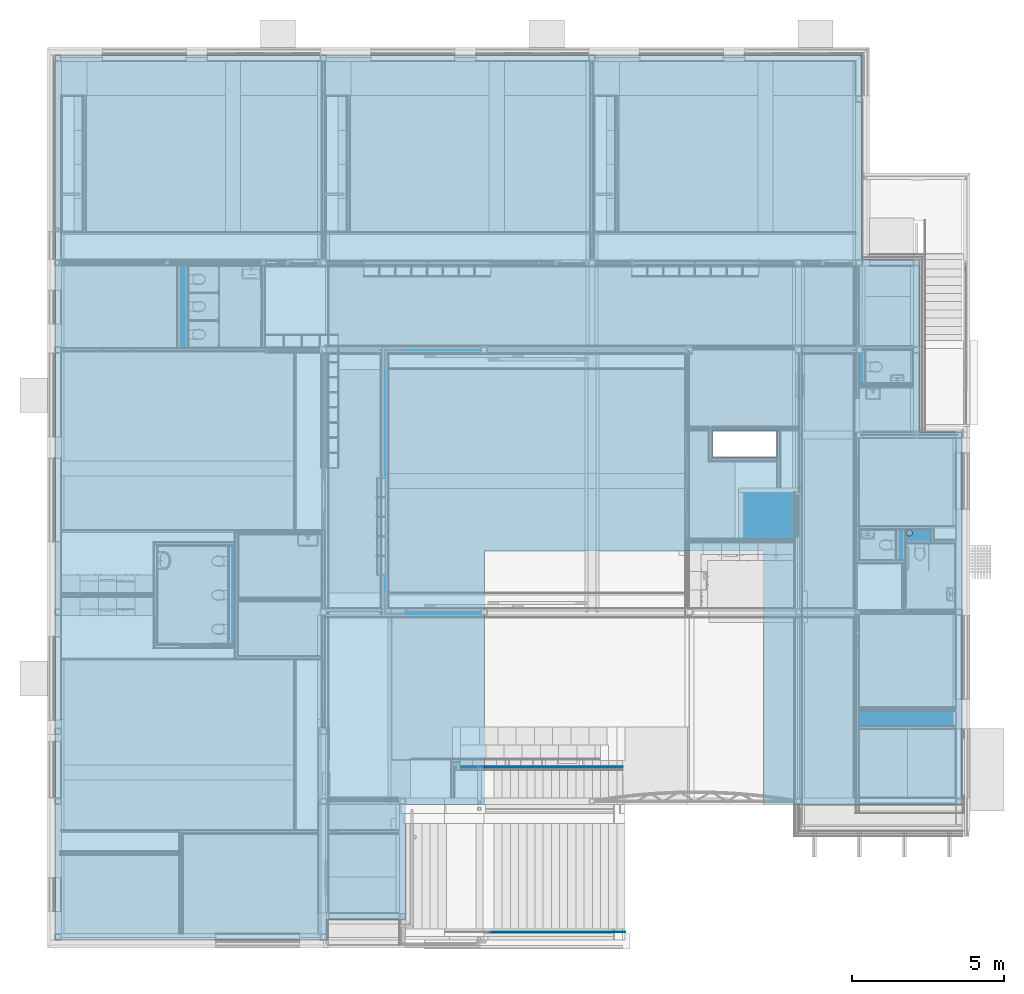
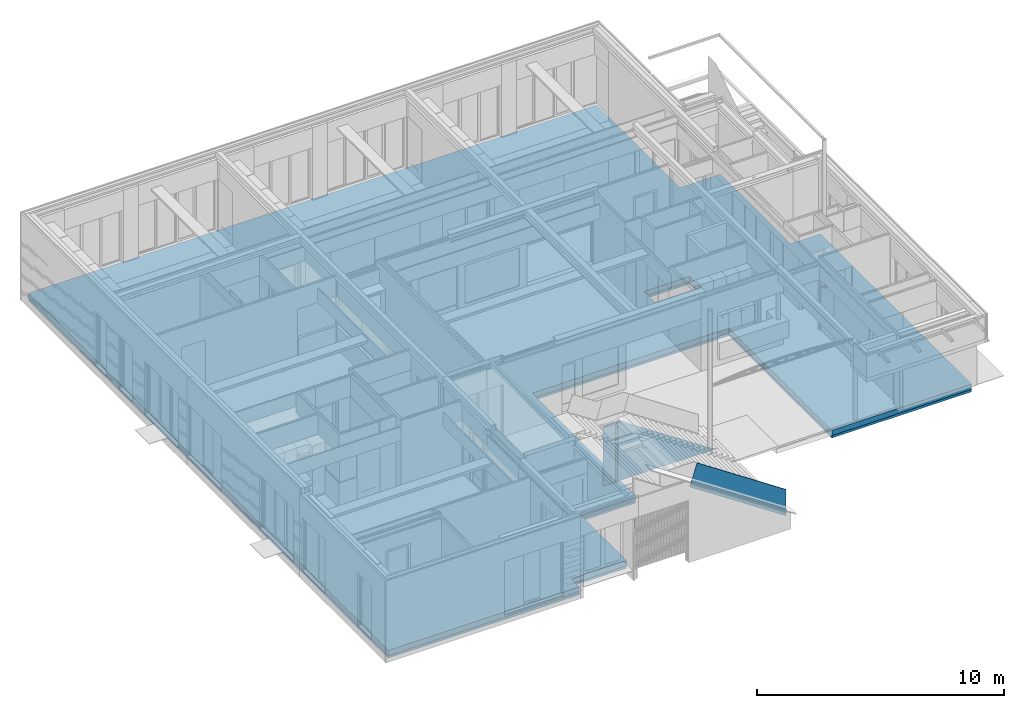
# One storey, part 59 of 165: 7 building element parts, 3 elements without a shape of their own.
"""IFC2X3 building model written with IfcOpenShell, lengths in millimetres."""

from ifc_helpers import new_model, entity, si_unit, converted_unit, derived_unit, money_unit, direction, frame, origin_with_axes, place, context, subcontext, project, spatial, faceted_brep, material, type_object, element, aggregate, save


model = new_model("IFC2X3")

# Units and contexts
model_context = context("Model", 3, precision=0.01, world=origin_with_axes(), true_north=direction((0.0, 1.0)))
body_context = subcontext(model_context, "Body", "Model", "MODEL_VIEW")
ifc_project = project(units=[si_unit("LENGTHUNIT", "METRE", prefix="MILLI"), si_unit("AREAUNIT", "SQUARE_METRE"), si_unit("VOLUMEUNIT", "CUBIC_METRE"), converted_unit("PLANEANGLEUNIT", "DEGREE", entity("IfcPlaneAngleMeasure", 0.0174532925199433), si_unit("PLANEANGLEUNIT", "RADIAN"), dimensions=[0, 0, 0, 0, 0, 0, 0]), money_unit("EUR"), converted_unit("TIMEUNIT", "Year", entity("IfcTimeMeasure", 31556926.0), si_unit("TIMEUNIT", "SECOND"), dimensions=[0, 0, 1, 0, 0, 0, 0]), si_unit("MASSUNIT", "GRAM", prefix="KILO"), si_unit("THERMODYNAMICTEMPERATUREUNIT", "DEGREE_CELSIUS"), si_unit("LUMINOUSINTENSITYUNIT", "LUMEN"), si_unit("ENERGYUNIT", "JOULE", prefix="MEGA"), derived_unit("THERMALCONDUCTANCEUNIT", [(si_unit("POWERUNIT", "WATT"), 1), (si_unit("LENGTHUNIT", "METRE"), -1), (si_unit("THERMODYNAMICTEMPERATUREUNIT", "KELVIN"), -1)]), derived_unit("SPECIFICHEATCAPACITYUNIT", [(si_unit("ENERGYUNIT", "JOULE"), 1), (si_unit("MASSUNIT", "GRAM", prefix="KILO"), -1), (si_unit("THERMODYNAMICTEMPERATUREUNIT", "KELVIN"), -1)]), derived_unit("MASSDENSITYUNIT", [(si_unit("MASSUNIT", "GRAM", prefix="KILO"), 1), (si_unit("VOLUMEUNIT", "CUBIC_METRE"), -1)])], contexts=[model_context])

# Site, building, storey
site_placement = place(None, origin_with_axes())
site = spatial("IfcSite", under=ifc_project, at=site_placement, Name="Site", CompositionType="ELEMENT")
building_placement = place(site_placement, origin_with_axes())
building = spatial("IfcBuilding", under=site, at=building_placement, Name="Naam gebouw", CompositionType="ELEMENT")
storey_placement = place(building_placement, origin_with_axes())
storey = spatial("IfcBuildingStorey", under=building, at=storey_placement, Name="Begane grond", CompositionType="ELEMENT", Elevation=0.0)

# Slab, building element parts
slab_type = type_object("IfcSlabType", Name="23 Geisoleerde kanaalplaat 260 380", PredefinedType="NOTDEFINED")
slab_placement = place(storey_placement, frame((0.0, 0.0, -99.99999999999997), z_axis=(0.0, 0.0, 1.0), x_axis=(1.0, 0.0, 0.0)))
slab = element("IfcSlab", 1, at=slab_placement, inside=storey, type_object=slab_type, Name="_Vloer-x", PredefinedType="NOTDEFINED")
ifc_material_1 = material(Name="Isolatie - Kunststof hard")
building_element_part_1_placement = place(slab_placement, origin_with_axes())
building_element_part_1 = element("IfcBuildingElementPart", 2, at=building_element_part_1_placement, material=ifc_material_1, Name="Isolatie - Kunststof hard", context=body_context, shape_type="Brep", body=[
    faceted_brep([(28255.42270007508, 13417.00472609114, -349.9999999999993), (28251.57453256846, 13443.76931899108, -349.9999999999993), (28240.34178569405, 13468.36560374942, -349.9999999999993), (28222.63446979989, 13488.8009356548, -349.9999999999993), (28199.88712631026, 13503.41976564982, -349.9999999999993), (28173.94260971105, 13511.03776306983, -349.9999999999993), (28146.90279043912, 13511.03776306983, -349.9999999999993), (28120.95827383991, 13503.41976564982, -349.9999999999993), (28098.21093035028, 13488.8009356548, -349.9999999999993), (28080.50361445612, 13468.36560374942, -349.9999999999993), (28069.27086758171, 13443.76931899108, -349.9999999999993), (28065.42270007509, 13417.00472609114, -349.9999999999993), (28069.27086758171, 13390.24013319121, -349.9999999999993), (28080.50361445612, 13365.64384843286, -349.9999999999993), (28098.21093035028, 13345.20851652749, -349.9999999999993), (28120.95827383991, 13330.58968653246, -349.9999999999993), (28146.90279043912, 13322.97168911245, -349.9999999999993), (28173.94260971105, 13322.97168911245, -349.9999999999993), (28199.88712631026, 13330.58968653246, -349.9999999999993), (28222.63446979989, 13345.20851652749, -349.9999999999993), (28240.34178569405, 13365.64384843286, -349.9999999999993), (28251.57453256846, 13390.24013319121, -349.9999999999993), (28255.42270007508, 13417.00472609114, -259.9999999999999), (28251.57453256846, 13443.76931899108, -259.9999999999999), (28240.34178569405, 13468.36560374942, -259.9999999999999), (28222.63446979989, 13488.8009356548, -259.9999999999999), (28199.88712631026, 13503.41976564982, -259.9999999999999), (28173.94260971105, 13511.03776306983, -259.9999999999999), (28146.90279043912, 13511.03776306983, -259.9999999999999), (28120.95827383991, 13503.41976564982, -259.9999999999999), (28098.21093035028, 13488.8009356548, -259.9999999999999), (28080.50361445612, 13468.36560374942, -259.9999999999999), (28069.27086758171, 13443.76931899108, -259.9999999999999), (28065.42270007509, 13417.00472609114, -259.9999999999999), (28069.27086758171, 13390.24013319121, -259.9999999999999), (28080.50361445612, 13365.64384843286, -259.9999999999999), (28098.21093035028, 13345.20851652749, -259.9999999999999), (28120.95827383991, 13330.58968653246, -259.9999999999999), (28146.90279043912, 13322.97168911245, -259.9999999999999), (28173.94260971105, 13322.97168911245, -259.9999999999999), (28199.88712631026, 13330.58968653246, -259.9999999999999), (28222.63446979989, 13345.20851652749, -259.9999999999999), (28240.34178569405, 13365.64384843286, -259.9999999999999), (28251.57453256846, 13390.24013319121, -259.9999999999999), (0.0, 29175.0, -259.9999999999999), (0.0, 0.0, -259.9999999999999), (8949.999999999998, 0.0, -259.9999999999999), (8949.999999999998, 679.9999999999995, -259.9999999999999), (11549.99935047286, 679.9999999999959, -259.9999999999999), (11550.00000000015, 4480.001049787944, -259.9999999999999), (14150.00000000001, 4480.000013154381, -259.9999999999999), (14150.00000000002, 12830.0, -259.9999999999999), (23350.00000000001, 12830.0, -259.9999999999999), (23350.00000000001, 4480.0, -259.9999999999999), (29899.99999999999, 4480.0, -259.9999999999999), (29899.99999999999, 16749.99778166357, -259.9999999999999), (28499.99998415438, 16749.99778166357, -259.9999999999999), (28499.99998415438, 22424.97621406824, -259.9999999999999), (26600.0, 22424.97621406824, -259.9999999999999), (26600.0, 29175.0, -259.9999999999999), (23799.99903999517, 16789.99778166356, -259.9999999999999), (23799.99903999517, 15899.99788904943, -259.9999999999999), (21664.99903999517, 15899.99788904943, -259.9999999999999), (21664.99903999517, 16789.99778166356, -259.9999999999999), (0.0, 29175.0, -380.0), (0.0, 0.0, -380.0), (8949.999999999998, 0.0, -380.0), (8949.999999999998, 679.9999999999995, -380.0), (11549.99935047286, 679.9999999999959, -380.0), (11550.00000000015, 4480.001049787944, -380.0), (14150.00000000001, 4480.000013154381, -380.0), (14150.00000000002, 12830.0, -380.0), (23350.00000000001, 12830.0, -380.0), (23350.00000000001, 4480.0, -380.0), (29899.99999999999, 4480.0, -380.0), (29899.99999999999, 16749.99778166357, -380.0), (28499.99998415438, 16749.99778166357, -380.0), (28499.99998415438, 22424.97621406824, -380.0), (26600.0, 22424.97621406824, -380.0), (26600.0, 29175.0, -380.0), (23799.99903999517, 16789.99778166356, -380.0), (23799.99903999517, 15899.99788904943, -380.0), (21664.99903999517, 15899.99788904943, -380.0), (21664.99903999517, 16789.99778166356, -380.0)], [[[0, 1, 2, 3, 4, 5, 6, 7, 8, 9, 10, 11, 12, 13, 14, 15, 16, 17, 18, 19, 20, 21]], [[22, 23, 1, 0]], [[23, 24, 2, 1]], [[24, 25, 3, 2]], [[25, 26, 4, 3]], [[26, 27, 5, 4]], [[27, 28, 6, 5]], [[28, 29, 7, 6]], [[29, 30, 8, 7]], [[30, 31, 9, 8]], [[31, 32, 10, 9]], [[32, 33, 11, 10]], [[33, 34, 12, 11]], [[34, 35, 13, 12]], [[35, 36, 14, 13]], [[36, 37, 15, 14]], [[37, 38, 16, 15]], [[38, 39, 17, 16]], [[39, 40, 18, 17]], [[40, 41, 19, 18]], [[41, 42, 20, 19]], [[42, 43, 21, 20]], [[43, 22, 0, 21]], [[44, 45, 46, 47, 48, 49, 50, 51, 52, 53, 54, 55, 56, 57, 58, 59], [60, 61, 62, 63], [24, 23, 22, 43, 42, 41, 40, 39, 38, 37, 36, 35, 34, 33, 32, 31, 30, 29, 28, 27, 26, 25]], [[44, 64, 65, 45]], [[45, 65, 66, 46]], [[46, 66, 67, 47]], [[47, 67, 68, 48]], [[48, 68, 69, 49]], [[49, 69, 70, 50]], [[50, 70, 71, 51]], [[51, 71, 72, 52]], [[52, 72, 73, 53]], [[53, 73, 74, 54]], [[54, 74, 75, 55]], [[55, 75, 76, 56]], [[56, 76, 77, 57]], [[57, 77, 78, 58]], [[58, 78, 79, 59]], [[59, 79, 64, 44]], [[60, 80, 81, 61]], [[61, 81, 82, 62]], [[62, 82, 83, 63]], [[63, 83, 80, 60]], [[66, 65, 64, 79, 78, 77, 76, 75, 74, 73, 72, 71, 70, 69, 68, 67], [82, 81, 80, 83]]]),
])
ifc_material_2 = material(Name="Beton gewapend prefab vloer")
building_element_part_2_placement = place(slab_placement, origin_with_axes())
building_element_part_2 = element("IfcBuildingElementPart", 3, at=building_element_part_2_placement, material=ifc_material_2, Name="Beton gewapend prefab vloer", context=body_context, shape_type="Brep", body=[
    faceted_brep([(8949.999999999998, 0.0, -259.9999999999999), (0.0, 0.0, -259.9999999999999), (0.0, 29175.0, -259.9999999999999), (26600.0, 29175.0, -259.9999999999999), (26600.0, 22424.97621406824, -259.9999999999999), (28499.99998415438, 22424.97621406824, -259.9999999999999), (28499.99998415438, 16749.99778166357, -259.9999999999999), (29899.99999999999, 16749.99778166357, -259.9999999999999), (29899.99999999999, 4480.0, -259.9999999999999), (23350.00000000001, 4480.0, -259.9999999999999), (23350.00000000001, 12830.0, -259.9999999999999), (14150.00000000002, 12830.0, -259.9999999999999), (14150.00000000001, 4480.000013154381, -259.9999999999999), (11550.00000000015, 4480.001049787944, -259.9999999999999), (11549.99935047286, 679.9999999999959, -259.9999999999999), (8949.999999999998, 679.9999999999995, -259.9999999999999), (21664.99903999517, 15899.99788904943, -259.9999999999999), (23799.99903999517, 15899.99788904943, -259.9999999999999), (23799.99903999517, 16789.99778166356, -259.9999999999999), (21664.99903999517, 16789.99778166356, -259.9999999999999), (28240.34178569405, 13365.64384843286, -259.9999999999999), (28251.57453256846, 13390.24013319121, -259.9999999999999), (28255.42270007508, 13417.00472609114, -259.9999999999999), (28251.57453256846, 13443.76931899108, -259.9999999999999), (28240.34178569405, 13468.36560374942, -259.9999999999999), (28222.63446979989, 13488.8009356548, -259.9999999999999), (28199.88712631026, 13503.41976564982, -259.9999999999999), (28173.94260971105, 13511.03776306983, -259.9999999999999), (28146.90279043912, 13511.03776306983, -259.9999999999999), (28120.95827383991, 13503.41976564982, -259.9999999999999), (28098.21093035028, 13488.8009356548, -259.9999999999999), (28080.50361445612, 13468.36560374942, -259.9999999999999), (28069.27086758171, 13443.76931899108, -259.9999999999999), (28065.42270007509, 13417.00472609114, -259.9999999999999), (28069.27086758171, 13390.24013319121, -259.9999999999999), (28080.50361445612, 13365.64384843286, -259.9999999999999), (28098.21093035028, 13345.20851652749, -259.9999999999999), (28120.95827383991, 13330.58968653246, -259.9999999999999), (28146.90279043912, 13322.97168911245, -259.9999999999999), (28173.94260971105, 13322.97168911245, -259.9999999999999), (28199.88712631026, 13330.58968653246, -259.9999999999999), (28222.63446979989, 13345.20851652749, -259.9999999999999), (8949.999999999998, 0.0, 0.0), (0.0, 0.0, 0.0), (0.0, 29175.0, 0.0), (26600.0, 29175.0, 0.0), (26600.0, 22424.97621406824, 0.0), (28499.99998415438, 22424.97621406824, 0.0), (28499.99998415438, 16749.99778166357, 0.0), (29899.99999999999, 16749.99778166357, 0.0), (29899.99999999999, 4480.0, 0.0), (23350.00000000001, 4480.0, 0.0), (23350.00000000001, 12830.0, 0.0), (14150.00000000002, 12830.0, 0.0), (14150.00000000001, 4480.000013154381, 0.0), (11550.00000000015, 4480.001049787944, 0.0), (11549.99935047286, 679.9999999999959, 0.0), (8949.999999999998, 679.9999999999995, 0.0), (21664.99903999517, 15899.99788904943, 0.0), (23799.99903999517, 15899.99788904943, 0.0), (23799.99903999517, 16789.99778166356, 0.0), (21664.99903999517, 16789.99778166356, 0.0), (28240.34178569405, 13365.64384843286, 0.0), (28251.57453256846, 13390.24013319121, 0.0), (28255.42270007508, 13417.00472609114, 0.0), (28251.57453256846, 13443.76931899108, 0.0), (28240.34178569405, 13468.36560374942, 0.0), (28222.63446979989, 13488.8009356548, 0.0), (28199.88712631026, 13503.41976564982, 0.0), (28173.94260971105, 13511.03776306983, 0.0), (28146.90279043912, 13511.03776306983, 0.0), (28120.95827383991, 13503.41976564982, 0.0), (28098.21093035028, 13488.8009356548, 0.0), (28080.50361445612, 13468.36560374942, 0.0), (28069.27086758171, 13443.76931899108, 0.0), (28065.42270007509, 13417.00472609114, 0.0), (28069.27086758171, 13390.24013319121, 0.0), (28080.50361445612, 13365.64384843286, 0.0), (28098.21093035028, 13345.20851652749, 0.0), (28120.95827383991, 13330.58968653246, 0.0), (28146.90279043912, 13322.97168911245, 0.0), (28173.94260971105, 13322.97168911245, 0.0), (28199.88712631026, 13330.58968653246, 0.0), (28222.63446979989, 13345.20851652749, 0.0)], [[[0, 1, 2, 3, 4, 5, 6, 7, 8, 9, 10, 11, 12, 13, 14, 15], [16, 17, 18, 19], [20, 21, 22, 23, 24, 25, 26, 27, 28, 29, 30, 31, 32, 33, 34, 35, 36, 37, 38, 39, 40, 41]], [[1, 0, 42, 43]], [[2, 1, 43, 44]], [[3, 2, 44, 45]], [[4, 3, 45, 46]], [[5, 4, 46, 47]], [[6, 5, 47, 48]], [[7, 6, 48, 49]], [[8, 7, 49, 50]], [[9, 8, 50, 51]], [[10, 9, 51, 52]], [[11, 10, 52, 53]], [[12, 11, 53, 54]], [[13, 12, 54, 55]], [[14, 13, 55, 56]], [[15, 14, 56, 57]], [[0, 15, 57, 42]], [[17, 16, 58, 59]], [[18, 17, 59, 60]], [[19, 18, 60, 61]], [[16, 19, 61, 58]], [[62, 63, 21, 20]], [[63, 64, 22, 21]], [[64, 65, 23, 22]], [[65, 66, 24, 23]], [[66, 67, 25, 24]], [[67, 68, 26, 25]], [[68, 69, 27, 26]], [[69, 70, 28, 27]], [[70, 71, 29, 28]], [[71, 72, 30, 29]], [[72, 73, 31, 30]], [[73, 74, 32, 31]], [[74, 75, 33, 32]], [[75, 76, 34, 33]], [[76, 77, 35, 34]], [[77, 78, 36, 35]], [[78, 79, 37, 36]], [[79, 80, 38, 37]], [[80, 81, 39, 38]], [[81, 82, 40, 39]], [[82, 83, 41, 40]], [[83, 62, 20, 41]], [[44, 43, 42, 57, 56, 55, 54, 53, 52, 51, 50, 49, 48, 47, 46, 45], [60, 59, 58, 61], [66, 65, 64, 63, 62, 83, 82, 81, 80, 79, 78, 77, 76, 75, 74, 73, 72, 71, 70, 69, 68, 67]]]),
])
aggregate(slab, [building_element_part_1, building_element_part_2])

# Proxy, building element part
building_element_proxy_type = type_object("IfcBuildingElementProxyType", Name="22 Metal stud 125 oregon pine 125", PredefinedType="NOTDEFINED")
proxy_placement = place(storey_placement, frame((13358.57015757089, 5730.000004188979, -100.0), z_axis=(0.0, 0.0, 1.0), x_axis=(1.0, 0.0, 0.0)))
proxy = element("IfcBuildingElementProxy", 4, at=proxy_placement, inside=storey, type_object=building_element_proxy_type, Name="_Wand-x")
ifc_material_3 = material(Name="Gipsplaat")
building_element_part_3_placement = place(proxy_placement, origin_with_axes())
building_element_part_3 = element("IfcBuildingElementPart", 5, at=building_element_part_3_placement, material=ifc_material_3, Name="Gipsplaat", context=body_context, shape_type="Brep", body=[
    faceted_brep([(5161.429870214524, -12.49999999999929, 38.1601360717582), (5173.670074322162, -12.49999999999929, 29.99999999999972), (5351.427797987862, -12.4999999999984, 29.99999999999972), (5351.427797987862, -12.4999999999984, 0.0), (681.4298424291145, -12.49999999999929, 0.0), (681.4298424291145, -12.49999999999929, 2816.999999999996), (701.4298424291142, -12.4999999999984, 2816.999999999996), (701.4298424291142, -12.4999999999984, 2825.499999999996), (634.1798424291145, -12.4999999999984, 2825.499999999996), (634.1798424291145, -12.4999999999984, 2941.499999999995), (701.4298424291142, -12.4999999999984, 2941.499999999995), (701.4298424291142, -12.4999999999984, 2949.999999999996), (561.4298424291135, -12.4999999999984, 2949.999999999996), (561.4298424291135, -12.4999999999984, 2941.499999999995), (628.6798424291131, -12.4999999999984, 2941.499999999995), (628.6798424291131, -12.4999999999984, 2825.499999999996), (561.4298424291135, -12.4999999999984, 2825.499999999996), (561.4298424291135, -12.4999999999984, 2816.999999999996), (581.4298424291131, -12.49999999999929, 2816.999999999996), (581.4298424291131, -12.49999999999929, 0.0), (-12.49999999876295, -12.50000000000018, 0.0), (-12.49999999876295, -12.50000000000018, 2960.0), (778.6700754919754, -12.49999999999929, 2959.999998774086), (1201.429870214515, -12.49999999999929, 2678.160136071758), (1291.429870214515, -12.49999999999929, 2618.160136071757), (1381.429870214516, -12.49999999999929, 2558.160136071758), (1471.429870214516, -12.49999999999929, 2498.160136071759), (1561.429870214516, -12.49999999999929, 2438.160136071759), (1651.429870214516, -12.49999999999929, 2378.160136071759), (1741.429870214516, -12.49999999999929, 2318.160136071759), (1831.429870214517, -12.49999999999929, 2258.160136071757), (1921.429870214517, -12.49999999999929, 2198.160136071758), (2011.429870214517, -12.49999999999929, 2138.160136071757), (2101.429870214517, -12.49999999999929, 2078.160136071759), (2191.429870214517, -12.49999999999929, 2018.160136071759), (2281.429870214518, -12.49999999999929, 1958.160136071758), (2371.429870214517, -12.49999999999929, 1898.160136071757), (2461.429870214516, -12.49999999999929, 1838.160136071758), (2551.429870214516, -12.49999999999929, 1778.160136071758), (2641.429870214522, -12.49999999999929, 1718.160136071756), (2731.429870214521, -12.49999999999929, 1658.160136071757), (2821.429870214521, -12.49999999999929, 1598.160136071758), (2911.429870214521, -12.49999999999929, 1538.160136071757), (3001.429870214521, -12.49999999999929, 1478.160136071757), (3091.429870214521, -12.49999999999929, 1418.160136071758), (3181.429870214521, -12.49999999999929, 1358.160136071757), (3271.42987021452, -12.49999999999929, 1298.160136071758), (3361.42987021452, -12.49999999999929, 1238.160136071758), (3451.42987021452, -12.49999999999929, 1178.160136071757), (3541.42987021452, -12.49999999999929, 1118.160136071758), (3631.42987021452, -12.49999999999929, 1058.160136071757), (3721.429870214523, -12.49999999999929, 998.1601360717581), (3811.429870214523, -12.49999999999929, 938.1601360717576), (3901.429870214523, -12.49999999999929, 878.1601360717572), (3991.429870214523, -12.49999999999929, 818.1601360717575), (4081.429870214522, -12.49999999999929, 758.160136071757), (4171.429870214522, -12.49999999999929, 698.1601360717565), (4261.429870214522, -12.49999999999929, 638.1601360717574), (4351.429870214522, -12.49999999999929, 578.1601360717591), (4441.429870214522, -12.49999999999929, 518.1601360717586), (4531.429870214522, -12.49999999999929, 458.1601360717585), (4621.429870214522, -12.49999999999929, 398.1601360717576), (4711.429870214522, -12.49999999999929, 338.1601360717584), (4801.429870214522, -12.49999999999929, 278.1601360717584), (4891.429870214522, -12.49999999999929, 218.1601360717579), (4981.429870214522, -12.49999999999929, 158.1601360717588), (5071.429870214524, -12.49999999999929, 98.16013607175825), (5161.429870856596, -24.99999999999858, 38.1601360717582), (5173.670074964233, -24.99999999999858, 29.99999999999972), (5351.427797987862, -24.99999999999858, 29.99999999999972), (5351.427797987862, -24.99999999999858, 0.0), (681.4298424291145, -24.99999999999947, 0.0), (681.4298424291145, -24.99999999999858, 2816.999999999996), (701.4298424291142, -24.99999999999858, 2816.999999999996), (701.4298424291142, -24.99999999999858, 2825.499999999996), (634.1798424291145, -24.99999999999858, 2825.499999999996), (634.1798424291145, -24.99999999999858, 2941.499999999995), (701.4298424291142, -24.99999999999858, 2941.499999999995), (701.4298424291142, -24.99999999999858, 2949.999999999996), (561.4298424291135, -24.99999999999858, 2949.999999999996), (561.4298424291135, -24.99999999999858, 2941.499999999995), (628.6798424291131, -24.99999999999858, 2941.499999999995), (628.6798424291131, -24.99999999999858, 2825.499999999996), (561.4298424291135, -24.99999999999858, 2825.499999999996), (561.4298424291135, -24.99999999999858, 2816.999999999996), (581.4298424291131, -24.99999999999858, 2816.999999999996), (581.4298424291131, -24.99999999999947, 0.0), (-12.4999999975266, -25.00000000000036, 0.0), (-12.4999999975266, -24.99999999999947, 2960.0), (778.6700760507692, -24.99999999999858, 2959.999998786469), (1201.429870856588, -24.99999999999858, 2678.160136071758), (1291.429870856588, -24.99999999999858, 2618.160136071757), (1381.429870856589, -24.99999999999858, 2558.160136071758), (1471.429870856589, -24.99999999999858, 2498.160136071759), (1561.429870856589, -24.99999999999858, 2438.160136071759), (1651.429870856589, -24.99999999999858, 2378.160136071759), (1741.429870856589, -24.99999999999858, 2318.160136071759), (1831.42987085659, -24.99999999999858, 2258.160136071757), (1921.42987085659, -24.99999999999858, 2198.160136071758), (2011.42987085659, -24.99999999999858, 2138.160136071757), (2101.42987085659, -24.99999999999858, 2078.160136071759), (2191.42987085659, -24.99999999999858, 2018.160136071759), (2281.429870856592, -24.99999999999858, 1958.160136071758), (2371.429870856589, -24.99999999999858, 1898.160136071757), (2461.429870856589, -24.99999999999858, 1838.160136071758), (2551.429870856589, -24.99999999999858, 1778.160136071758), (2641.429870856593, -24.99999999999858, 1718.160136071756), (2731.429870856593, -24.99999999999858, 1658.160136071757), (2821.429870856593, -24.99999999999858, 1598.160136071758), (2911.429870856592, -24.99999999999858, 1538.160136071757), (3001.429870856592, -24.99999999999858, 1478.160136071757), (3091.429870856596, -24.99999999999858, 1418.160136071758), (3181.429870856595, -24.99999999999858, 1358.160136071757), (3271.429870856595, -24.99999999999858, 1298.160136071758), (3361.429870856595, -24.99999999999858, 1238.160136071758), (3451.429870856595, -24.99999999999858, 1178.160136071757), (3541.429870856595, -24.99999999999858, 1118.160136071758), (3631.429870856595, -24.99999999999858, 1058.160136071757), (3721.429870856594, -24.99999999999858, 998.1601360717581), (3811.429870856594, -24.99999999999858, 938.1601360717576), (3901.429870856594, -24.99999999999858, 878.1601360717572), (3991.429870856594, -24.99999999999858, 818.1601360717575), (4081.429870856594, -24.99999999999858, 758.160136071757), (4171.429870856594, -24.99999999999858, 698.1601360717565), (4261.429870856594, -24.99999999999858, 638.1601360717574), (4351.429870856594, -24.99999999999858, 578.1601360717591), (4441.429870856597, -24.99999999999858, 518.1601360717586), (4531.429870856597, -24.99999999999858, 458.1601360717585), (4621.429870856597, -24.99999999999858, 398.1601360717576), (4711.429870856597, -24.99999999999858, 338.1601360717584), (4801.429870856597, -24.99999999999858, 278.1601360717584), (4891.429870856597, -24.99999999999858, 218.1601360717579), (4981.429870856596, -24.99999999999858, 158.1601360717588), (5071.429870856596, -24.99999999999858, 98.16013607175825)], [[[0, 1, 2, 3, 4, 5, 6, 7, 8, 9, 10, 11, 12, 13, 14, 15, 16, 17, 18, 19, 20, 21, 22, 23, 24, 25, 26, 27, 28, 29, 30, 31, 32, 33, 34, 35, 36, 37, 38, 39, 40, 41, 42, 43, 44, 45, 46, 47, 48, 49, 50, 51, 52, 53, 54, 55, 56, 57, 58, 59, 60, 61, 62, 63, 64, 65, 66]], [[1, 0, 67, 68]], [[69, 2, 1, 68]], [[2, 69, 70, 3]], [[70, 71, 4, 3]], [[71, 72, 5, 4]], [[6, 5, 72, 73]], [[73, 74, 7, 6]], [[74, 75, 8, 7]], [[75, 76, 9, 8]], [[76, 77, 10, 9]], [[77, 78, 11, 10]], [[78, 79, 12, 11]], [[79, 80, 13, 12]], [[80, 81, 14, 13]], [[81, 82, 15, 14]], [[82, 83, 16, 15]], [[83, 84, 17, 16]], [[84, 85, 18, 17]], [[86, 19, 18, 85]], [[20, 19, 86, 87]], [[88, 21, 20, 87]], [[22, 21, 88, 89]], [[23, 22, 89, 90]], [[24, 23, 90, 91]], [[25, 24, 91, 92]], [[26, 25, 92, 93]], [[27, 26, 93, 94]], [[28, 27, 94, 95]], [[29, 28, 95, 96]], [[30, 29, 96, 97]], [[31, 30, 97, 98]], [[32, 31, 98, 99]], [[33, 32, 99, 100]], [[34, 33, 100, 101]], [[35, 34, 101, 102]], [[36, 35, 102, 103]], [[37, 36, 103, 104]], [[38, 37, 104, 105]], [[39, 38, 105, 106]], [[40, 39, 106, 107]], [[41, 40, 107, 108]], [[42, 41, 108, 109]], [[43, 42, 109, 110]], [[44, 43, 110, 111]], [[45, 44, 111, 112]], [[46, 45, 112, 113]], [[47, 46, 113, 114]], [[48, 47, 114, 115]], [[49, 48, 115, 116]], [[50, 49, 116, 117]], [[51, 50, 117, 118]], [[52, 51, 118, 119]], [[53, 52, 119, 120]], [[54, 53, 120, 121]], [[55, 54, 121, 122]], [[56, 55, 122, 123]], [[57, 56, 123, 124]], [[58, 57, 124, 125]], [[59, 58, 125, 126]], [[60, 59, 126, 127]], [[61, 60, 127, 128]], [[62, 61, 128, 129]], [[63, 62, 129, 130]], [[64, 63, 130, 131]], [[65, 64, 131, 132]], [[66, 65, 132, 133]], [[0, 66, 133, 67]], [[89, 88, 87, 86, 85, 84, 83, 82, 81, 80, 79, 78, 77, 76, 75, 74, 73, 72, 71, 70, 69, 68, 67, 133, 132, 131, 130, 129, 128, 127, 126, 125, 124, 123, 122, 121, 120, 119, 118, 117, 116, 115, 114, 113, 112, 111, 110, 109, 108, 107, 106, 105, 104, 103, 102, 101, 100, 99, 98, 97, 96, 95, 94, 93, 92, 91, 90]]]),
    faceted_brep([(675.4298424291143, -18.49999999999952, 2816.999999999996), (587.4298424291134, -18.49999999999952, 2816.999999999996), (587.4298424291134, -24.99999999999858, 2816.999999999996), (675.4298424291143, -24.99999999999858, 2816.999999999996), (587.4298424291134, -18.49999999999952, 0.0), (675.4298424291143, -18.49999999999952, 0.0), (587.4298424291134, -24.99999999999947, 0.0), (675.4298424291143, -24.99999999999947, 0.0)], [[[0, 1, 2, 3]], [[4, 1, 0, 5]], [[6, 2, 1, 4]], [[6, 7, 3, 2]], [[5, 0, 3, 7]], [[4, 5, 7, 6]]]),
])
aggregate(proxy, [building_element_part_3])

# Beam, building element parts
beam_type = type_object("IfcBeamType", Name="34 Glas balustrade binnen 50 x 1800", PredefinedType="BEAM")
beam_placement = place(storey_placement, frame((18790.00009135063, 299.9998146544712, 169.9999999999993), z_axis=(0.0, 0.0, 1.0), x_axis=(5.136584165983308e-08, 0.9999999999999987, 0.0)))
beam = element("IfcBeam", 6, at=beam_placement, inside=storey, type_object=beam_type, Name="_Regenwaterafvoer-x", ObjectType="BEAM")
ifc_material_4 = material(Name="Glas")
building_element_part_4_placement = place(beam_placement, origin_with_axes())
building_element_part_4 = element("IfcBuildingElementPart", 7, at=building_element_part_4_placement, material=ifc_material_4, Name="Glas", context=body_context, shape_type="Brep", body=[
    faceted_brep([(-19.99999940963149, 0.0, 0.0), (-19.9999994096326, 4432.499999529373, 2954.999999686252), (-19.99999940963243, 4456.791688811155, 2874.770000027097), (-19.99999940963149, 0.0, -96.42445918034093), (-14.99999940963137, 0.0, 0.0), (-14.99999940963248, 4432.500000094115, 2955.000000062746), (-14.99999940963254, 4456.791689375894, 2874.770000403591), (-14.99999940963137, 0.0, -96.42445918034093)], [[[0, 1, 2, 3]], [[4, 5, 1, 0]], [[2, 1, 5, 6]], [[3, 2, 6, 7]], [[4, 0, 3, 7]], [[7, 6, 5, 4]]]),
])
building_element_part_5_placement = place(beam_placement, origin_with_axes())
building_element_part_5 = element("IfcBuildingElementPart", 8, at=building_element_part_5_placement, material=ifc_material_4, Name="Glas", context=body_context, shape_type="Brep", body=[
    faceted_brep([(-19.99999211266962, 5.937099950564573, 965.6417974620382), (-19.99999211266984, 5.937099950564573, 13.92428537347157), (-19.99999211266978, 0.0, 9.966218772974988), (-19.99999211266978, 0.0, 2.002074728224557e-06), (-19.99999211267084, 4432.499999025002, 2955.000001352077), (-19.99999211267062, 4190.228132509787, 3755.169620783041), (-22.47650720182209, 7.671174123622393, 963.8214465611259), (-22.47650720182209, 7.671174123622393, 15.08033497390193), (-39.99999585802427, 0.0, 9.966220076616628), (-22.99982801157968, 8.037607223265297, 15.32462373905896), (-25.92482814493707, 9.401556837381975, 16.23392366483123), (-27.73922392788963, 10.24762326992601, 16.79796806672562), (-32.790383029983, 11.60107674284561, 17.70027070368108), (-37.99982840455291, 12.05684364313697, 18.004115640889), (-39.99999585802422, 11.88185146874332, 17.88745432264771), (-39.99999585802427, 0.0, 2.002074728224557e-06), (-39.99999585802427, 0.0, -96.42445918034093), (-19.99999211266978, 0.0, -96.42445918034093), (-19.99999211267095, 4456.791688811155, 2874.770000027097), (-22.47691621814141, 4190.978084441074, 3752.692696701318), (-39.99999585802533, 4456.791686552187, 2874.76999852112), (-39.99999585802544, 4432.499996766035, 2954.999999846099), (-39.99999585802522, 4192.635800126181, 3747.217625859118), (-38.00023715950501, 4192.688773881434, 3747.042666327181), (-33.80663365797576, 4192.577687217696, 3747.409562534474), (-29.74045065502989, 4192.247804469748, 3748.499093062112), (-25.92523706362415, 4191.709147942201, 3750.278156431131), (-22.99982801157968, 8.037607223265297, 963.6253374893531), (-25.92482814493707, 9.401556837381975, 962.0731190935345), (-27.73922392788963, 10.24762326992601, 961.6203179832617), (-29.74004181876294, 10.78374059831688, 960.8564072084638), (-32.790383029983, 11.60107674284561, 960.4189820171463), (-33.80622487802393, 11.68995128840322, 960.15109530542), (-37.99982840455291, 12.05684364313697, 959.9547402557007), (-39.99999585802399, 11.88185146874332, 960.0483931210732)], [[[0, 1, 2, 3, 4, 5]], [[1, 0, 6, 7]], [[8, 2, 1, 7, 9, 10, 11, 12, 13, 14]], [[2, 8, 15, 16, 17, 3]], [[17, 18, 4, 3]], [[19, 5, 4, 18, 20, 21, 22, 23, 24, 25, 26]], [[0, 5, 19, 6]], [[7, 6, 27, 9]], [[9, 27, 28, 10]], [[10, 28, 29, 11]], [[12, 11, 29, 30, 31]], [[13, 12, 31, 32, 33]], [[34, 14, 13, 33]], [[34, 22, 21, 15, 8, 14]], [[15, 21, 20, 16]], [[16, 20, 18, 17]], [[22, 34, 33, 23]], [[24, 23, 33, 32]], [[25, 24, 32, 31, 30]], [[26, 25, 30, 29, 28]], [[19, 26, 28, 27, 6]]]),
])
building_element_part_6_placement = place(beam_placement, origin_with_axes())
building_element_part_6 = element("IfcBuildingElementPart", 9, at=building_element_part_6_placement, material=ifc_material_4, Name="Glas", context=body_context, shape_type="Brep", body=[
    faceted_brep([(-44.99800116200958, 0.0, 0.0), (-44.99800116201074, 4432.499996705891, 2954.999997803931), (-44.99800116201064, 4456.791685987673, 2874.769998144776), (-44.99800116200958, 0.0, -96.42445918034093), (-39.99999940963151, 0.0, 0.0), (-39.9999994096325, 4432.499997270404, 2954.999998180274), (-39.99999940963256, 4456.791686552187, 2874.76999852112), (-39.99999940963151, 0.0, -96.42445918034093)], [[[0, 1, 2, 3]], [[4, 5, 1, 0]], [[2, 1, 5, 6]], [[3, 2, 6, 7]], [[4, 0, 3, 7]], [[7, 6, 5, 4]]]),
])
ifc_material_5 = material(Name="Metaal - Staal C")
building_element_part_7_placement = place(beam_placement, origin_with_axes())
building_element_part_7 = element("IfcBuildingElementPart", 10, at=building_element_part_7_placement, material=ifc_material_5, Name="Metaal - Staal C", context=body_context, shape_type="Brep", body=[
    faceted_brep([(-54.99800116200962, 0.0, -180.2775637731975), (-54.99800116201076, 4477.91634118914, 2804.999997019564), (-44.9980011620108, 4477.916342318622, 2804.999997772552), (-44.99800116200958, 0.0, -180.2775637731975), (-54.99800116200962, 0.0, 0.0), (-54.99800116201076, 4432.499995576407, 2954.999997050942), (-44.99800116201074, 4432.499996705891, 2954.999997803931), (-44.99800116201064, 4456.791685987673, 2874.769998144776), (-44.99800116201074, 4458.235925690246, 2869.999998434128), (-15.00000000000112, 4458.23592907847, 2870.000000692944), (-14.99999940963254, 4456.791689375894, 2874.770000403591), (-15.00000000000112, 4432.500000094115, 2955.000000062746), (-5.000000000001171, 4432.500001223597, 2955.000000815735), (-5.000000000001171, 4523.332692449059, 2655.000000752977), (-15.00000000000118, 4523.332691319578, 2654.99999999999), (-15.00000000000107, 4470.346954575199, 2830.000000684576), (-44.99800116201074, 4470.346951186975, 2829.999998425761), (-15.00000000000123, 4461.263685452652, 2860.000000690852), (-44.99800116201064, 4461.263682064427, 2859.999998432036), (-44.99800116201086, 4467.319194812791, 2839.999998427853), (-15.00000000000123, 4467.319198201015, 2840.000000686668), (-44.99800116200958, 0.0, -150.2313023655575), (-15.00000000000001, 0.0, -150.2313023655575), (-15.00000000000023, 0.0, -360.5551275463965), (-4.999999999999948, 0.0, -360.5551275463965), (-4.999999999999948, 0.0, 0.0), (-15.00000000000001, 0.0, 0.0), (-14.99999940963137, 0.0, -96.42445918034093), (-15.00000000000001, 0.0, -102.1572853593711), (-44.99800116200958, 0.0, -102.1572853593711), (-44.99800116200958, 0.0, -96.42445918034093), (-44.99800116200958, 0.0, 0.0), (-44.99800116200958, 0.0, -138.2127981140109), (-44.99800116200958, 0.0, -114.1757896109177), (-15.00000000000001, 0.0, -114.1757896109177), (-15.00000000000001, 0.0, -138.2127981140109)], [[[0, 1, 2, 3]], [[4, 5, 1, 0]], [[2, 1, 5, 6, 7, 8, 9, 10, 11, 12, 13, 14, 15, 16], [17, 18, 19, 20]], [[3, 2, 16, 21]], [[4, 0, 3, 21, 22, 23, 24, 25, 26, 27, 28, 29, 30, 31], [32, 33, 34, 35]], [[31, 6, 5, 4]], [[30, 7, 6, 31]], [[29, 8, 7, 30]], [[28, 9, 8, 29]], [[27, 10, 9, 28]], [[26, 11, 10, 27]], [[25, 12, 11, 26]], [[24, 13, 12, 25]], [[23, 14, 13, 24]], [[22, 15, 14, 23]], [[21, 16, 15, 22]], [[33, 18, 17, 34]], [[32, 19, 18, 33]], [[35, 20, 19, 32]], [[34, 17, 20, 35]]]),
])
aggregate(beam, [building_element_part_4, building_element_part_5, building_element_part_6, building_element_part_7])

save(model, "model.ifc")
